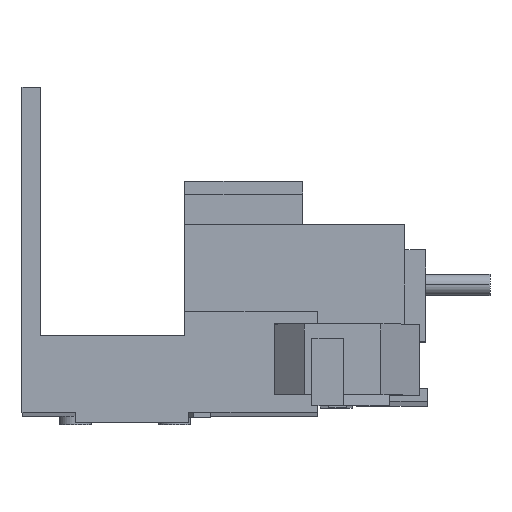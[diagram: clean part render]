
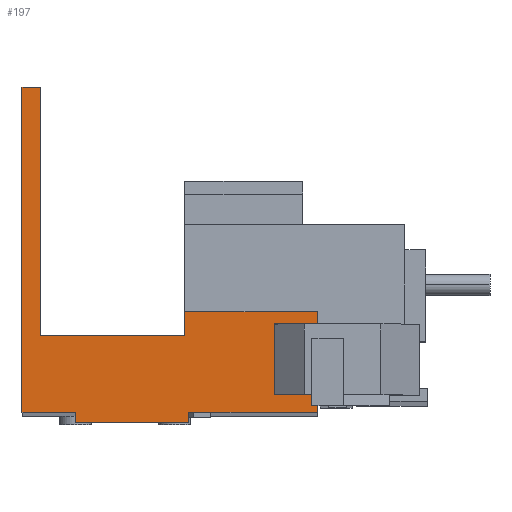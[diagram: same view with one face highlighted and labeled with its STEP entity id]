
A CAD part, front view. The second image highlights one B-rep face of the part: STEP entity #197.
In plain terms, the highlighted planar face has unit normal (0, -1, 0.002).
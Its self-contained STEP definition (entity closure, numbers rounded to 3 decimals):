
#36 = LINE ( 'NONE', #1795, #51 ) ;
#45 = LINE ( 'NONE', #1803, #48 ) ;
#48 = VECTOR ( 'NONE', #1804, 1000. ) ;
#51 = VECTOR ( 'NONE', #1796, 1000. ) ;
#197 = ADVANCED_FACE ( 'NONE', ( #3921 ), #5482, .F. ) ;
#500 = AXIS2_PLACEMENT_3D ( 'NONE', #5439, #5489, #5471 ) ;
#1303 = CARTESIAN_POINT ( 'NONE',  ( 0., -32.98, 9.819 ) ) ;
#1307 = DIRECTION ( 'NONE',  ( 0., 0.002, 1. ) ) ;
#1331 = CARTESIAN_POINT ( 'NONE',  ( 41.6, -33.046, -21.831 ) ) ;
#1336 = DIRECTION ( 'NONE',  ( 1., 0., 0. ) ) ;
#1367 = CARTESIAN_POINT ( 'NONE',  ( 22.92, -33.046, -21.831 ) ) ;
#1372 = DIRECTION ( 'NONE',  ( 0., 0.002, 1. ) ) ;
#1391 = CARTESIAN_POINT ( 'NONE',  ( 2.55, -33.072, -34.474 ) ) ;
#1392 = DIRECTION ( 'NONE',  ( 0., -0.002, -1. ) ) ;
#1399 = CARTESIAN_POINT ( 'NONE',  ( 1.75, -33.053, -25.181 ) ) ;
#1401 = DIRECTION ( 'NONE',  ( 1., 0., 0. ) ) ;
#1407 = CARTESIAN_POINT ( 'NONE',  ( 7.5, -33.078, -37.431 ) ) ;
#1408 = DIRECTION ( 'NONE',  ( 0., 0.002, 1. ) ) ;
#1415 = CARTESIAN_POINT ( 'NONE',  ( 7.5, -33.078, -37.431 ) ) ;
#1417 = DIRECTION ( 'NONE',  ( 1., 0., 0. ) ) ;
#1421 = CARTESIAN_POINT ( 'NONE',  ( 23.5, -33.078, -37.431 ) ) ;
#1422 = DIRECTION ( 'NONE',  ( 0., 0.002, 1. ) ) ;
#1651 = CARTESIAN_POINT ( 'NONE',  ( 2.55, -32.98, 9.819 ) ) ;
#1663 = DIRECTION ( 'NONE',  ( 1., 0., 0. ) ) ;
#1683 = CARTESIAN_POINT ( 'NONE',  ( 41.6, -33.075, -35.931 ) ) ;
#1684 = DIRECTION ( 'NONE',  ( 0., -0.002, -1. ) ) ;
#1795 = CARTESIAN_POINT ( 'NONE',  ( 0., -33.075, -35.931 ) ) ;
#1796 = DIRECTION ( 'NONE',  ( -1., 0., 0. ) ) ;
#1803 = CARTESIAN_POINT ( 'NONE',  ( 0., -33.075, -35.931 ) ) ;
#1804 = DIRECTION ( 'NONE',  ( -1., 0., 0. ) ) ;
#1950 = CARTESIAN_POINT ( 'NONE',  ( 41.6, -33.075, -35.931 ) ) ;
#2048 = CARTESIAN_POINT ( 'NONE',  ( 41.6, -33.046, -21.831 ) ) ;
#2051 = CARTESIAN_POINT ( 'NONE',  ( 7.5, -33.075, -35.931 ) ) ;
#2120 = CARTESIAN_POINT ( 'NONE',  ( 23.5, -33.078, -37.431 ) ) ;
#2210 = CARTESIAN_POINT ( 'NONE',  ( 0., -33.075, -35.931 ) ) ;
#2228 = CARTESIAN_POINT ( 'NONE',  ( 23.5, -33.075, -35.931 ) ) ;
#2230 = CARTESIAN_POINT ( 'NONE',  ( 2.55, -33.053, -25.181 ) ) ;
#2253 = CARTESIAN_POINT ( 'NONE',  ( 2.55, -32.98, 9.819 ) ) ;
#2254 = CARTESIAN_POINT ( 'NONE',  ( 0., -32.98, 9.819 ) ) ;
#2260 = CARTESIAN_POINT ( 'NONE',  ( 22.92, -33.046, -21.831 ) ) ;
#2264 = CARTESIAN_POINT ( 'NONE',  ( 22.92, -33.053, -25.181 ) ) ;
#2265 = CARTESIAN_POINT ( 'NONE',  ( 7.5, -33.078, -37.431 ) ) ;
#2800 = EDGE_CURVE ( 'NONE', #5014, #5054, #3545, .T. ) ;
#2813 = EDGE_CURVE ( 'NONE', #5060, #4676, #3127, .T. ) ;
#2829 = EDGE_CURVE ( 'NONE', #5064, #5060, #3946, .T. ) ;
#2839 = EDGE_CURVE ( 'NONE', #5053, #5030, #3638, .T. ) ;
#2843 = EDGE_CURVE ( 'NONE', #5030, #5064, #3615, .T. ) ;
#2847 = EDGE_CURVE ( 'NONE', #5065, #4679, #3603, .T. ) ;
#2851 = EDGE_CURVE ( 'NONE', #5065, #4869, #3588, .T. ) ;
#2854 = EDGE_CURVE ( 'NONE', #4869, #5028, #3220, .T. ) ;
#2960 = EDGE_CURVE ( 'NONE', #5054, #5053, #3696, .T. ) ;
#2971 = EDGE_CURVE ( 'NONE', #4676, #4586, #3301, .T. ) ;
#3018 = EDGE_CURVE ( 'NONE', #4679, #5014, #36, .T. ) ;
#3022 = EDGE_CURVE ( 'NONE', #4586, #5028, #45, .T. ) ;
#3102 = VECTOR ( 'NONE', #1336, 1000. ) ;
#3127 = LINE ( 'NONE', #1331, #3102 ) ;
#3155 = VECTOR ( 'NONE', #1422, 1000. ) ;
#3220 = LINE ( 'NONE', #1421, #3155 ) ;
#3301 = LINE ( 'NONE', #1683, #3454 ) ;
#3379 = VECTOR ( 'NONE', #1372, 1000. ) ;
#3454 = VECTOR ( 'NONE', #1684, 1000. ) ;
#3530 = VECTOR ( 'NONE', #1307, 1000. ) ;
#3545 = LINE ( 'NONE', #1303, #3530 ) ;
#3583 = VECTOR ( 'NONE', #1417, 1000. ) ;
#3588 = LINE ( 'NONE', #1415, #3583 ) ;
#3598 = VECTOR ( 'NONE', #1408, 1000. ) ;
#3603 = LINE ( 'NONE', #1407, #3598 ) ;
#3611 = VECTOR ( 'NONE', #1401, 1000. ) ;
#3615 = LINE ( 'NONE', #1399, #3611 ) ;
#3632 = VECTOR ( 'NONE', #1392, 1000. ) ;
#3638 = LINE ( 'NONE', #1391, #3632 ) ;
#3696 = LINE ( 'NONE', #1651, #3776 ) ;
#3776 = VECTOR ( 'NONE', #1663, 1000. ) ;
#3921 = FACE_OUTER_BOUND ( 'NONE', #4851, .T. ) ;
#3946 = LINE ( 'NONE', #1367, #3379 ) ;
#4150 = ORIENTED_EDGE ( 'NONE', *, *, #2843, .F. ) ;
#4151 = ORIENTED_EDGE ( 'NONE', *, *, #2839, .F. ) ;
#4152 = ORIENTED_EDGE ( 'NONE', *, *, #2960, .F. ) ;
#4153 = ORIENTED_EDGE ( 'NONE', *, *, #2800, .F. ) ;
#4154 = ORIENTED_EDGE ( 'NONE', *, *, #3018, .F. ) ;
#4155 = ORIENTED_EDGE ( 'NONE', *, *, #2847, .F. ) ;
#4156 = ORIENTED_EDGE ( 'NONE', *, *, #2851, .T. ) ;
#4157 = ORIENTED_EDGE ( 'NONE', *, *, #2854, .T. ) ;
#4158 = ORIENTED_EDGE ( 'NONE', *, *, #3022, .F. ) ;
#4159 = ORIENTED_EDGE ( 'NONE', *, *, #2971, .F. ) ;
#4160 = ORIENTED_EDGE ( 'NONE', *, *, #2813, .F. ) ;
#4161 = ORIENTED_EDGE ( 'NONE', *, *, #2829, .F. ) ;
#4586 = VERTEX_POINT ( 'NONE', #1950 ) ;
#4676 = VERTEX_POINT ( 'NONE', #2048 ) ;
#4679 = VERTEX_POINT ( 'NONE', #2051 ) ;
#4851 = EDGE_LOOP ( 'NONE', ( #4150, #4151, #4152, #4153, #4154, #4155, #4156, #4157, #4158, #4159, #4160, #4161 ) ) ;
#4869 = VERTEX_POINT ( 'NONE', #2120 ) ;
#5014 = VERTEX_POINT ( 'NONE', #2210 ) ;
#5028 = VERTEX_POINT ( 'NONE', #2228 ) ;
#5030 = VERTEX_POINT ( 'NONE', #2230 ) ;
#5053 = VERTEX_POINT ( 'NONE', #2253 ) ;
#5054 = VERTEX_POINT ( 'NONE', #2254 ) ;
#5060 = VERTEX_POINT ( 'NONE', #2260 ) ;
#5064 = VERTEX_POINT ( 'NONE', #2264 ) ;
#5065 = VERTEX_POINT ( 'NONE', #2265 ) ;
#5439 = CARTESIAN_POINT ( 'NONE',  ( 0., -33.075, -35.931 ) ) ;
#5471 = DIRECTION ( 'NONE',  ( 1., 0., 0. ) ) ;
#5482 = PLANE ( 'NONE',  #500 ) ;
#5489 = DIRECTION ( 'NONE',  ( 0., 1., -0.002 ) ) ;
